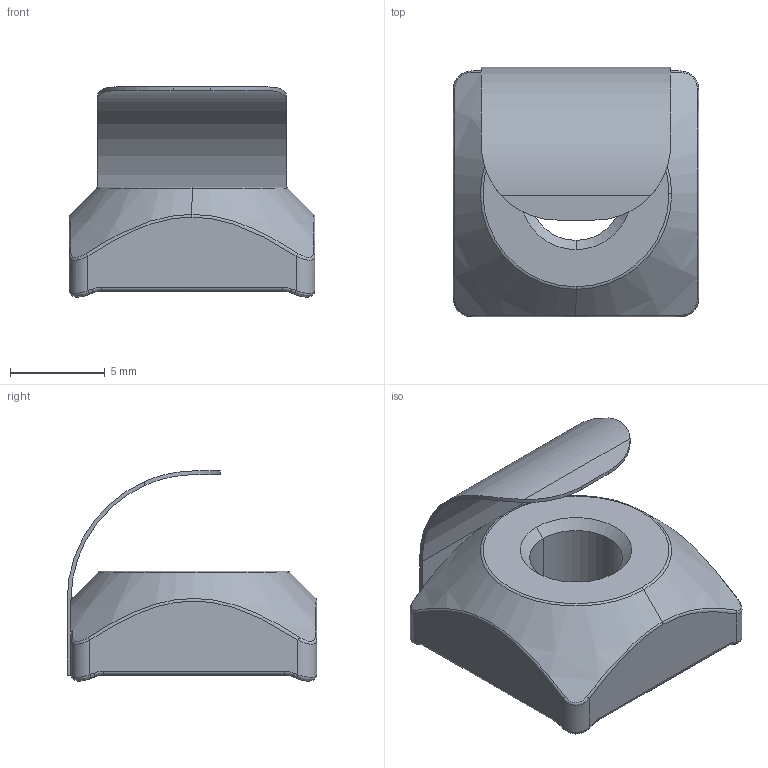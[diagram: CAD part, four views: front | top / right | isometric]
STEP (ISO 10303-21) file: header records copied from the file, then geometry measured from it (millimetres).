
FILE_DESCRIPTION (( 'STEP AP214' ), '1' );
FILE_NAME ('1.2129 Neliömutteri M6 kiinnityslevyllä ESD.STEP', '2025-09-26T06:35:30', ( '' ), ( '' ), 'SwSTEP 2.0', 'SolidWorks 2025', '' );
FILE_SCHEMA (( 'AUTOMOTIVE_DESIGN' ));
Length unit declared in the file: millimetre
Products named in the file (1): 1.2129 Neliömutteri M6 kiinnityslevyllä ESD
Bounding box: 13 x 13.2 x 11.12 mm (x, y, z)
Volume: 723.4 mm3; surface area: 810.6 mm2
Topology: 1 solids, 1 shells, 79 faces, 192 edges, 115 vertices
Faces by surface type: cylinder 29, bspline 22, plane 19, cone 6, torus 3
Entity records: 3334 total; most frequent: CARTESIAN_POINT 1639, ORIENTED_EDGE 384, DIRECTION 310, EDGE_CURVE 192, AXIS2_PLACEMENT_3D 120, VERTEX_POINT 115, EDGE_LOOP 81, ADVANCED_FACE 79
